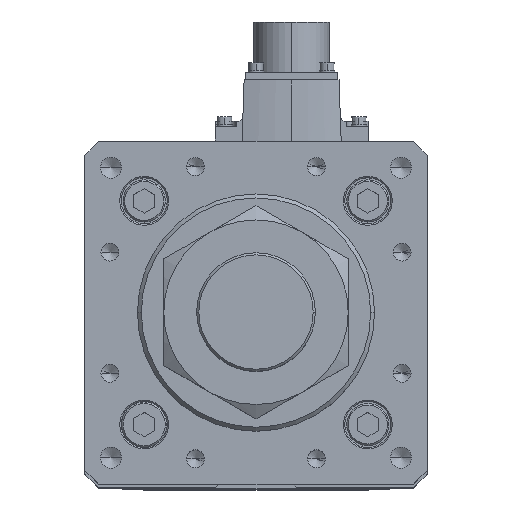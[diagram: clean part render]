
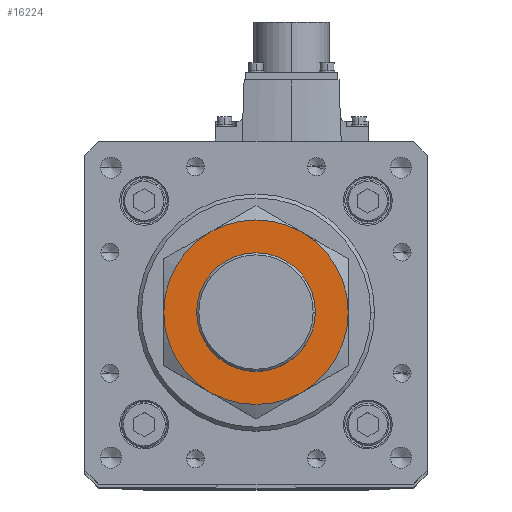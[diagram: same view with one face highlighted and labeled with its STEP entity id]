
A CAD part, top view. The second image highlights one B-rep face of the part: STEP entity #16224.
In plain terms, the highlighted planar face has unit normal (0, 0, 1).
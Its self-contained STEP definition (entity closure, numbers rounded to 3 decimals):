
#69 = ORIENTED_EDGE ( 'NONE', *, *, #29743, .F. ) ;
#399 = CARTESIAN_POINT ( 'NONE',  ( 0., 0., 27. ) ) ;
#406 = CARTESIAN_POINT ( 'NONE',  ( -17.5, 30.311, 27. ) ) ;
#1170 = CARTESIAN_POINT ( 'NONE',  ( 17.5, -30.311, 27. ) ) ;
#1745 = FACE_OUTER_BOUND ( 'NONE', #26105, .T. ) ;
#1754 = EDGE_CURVE ( 'NONE', #26246, #27239, #8614, .T. ) ;
#2060 = EDGE_CURVE ( 'NONE', #4190, #24587, #18325, .T. ) ;
#2232 = FACE_BOUND ( 'NONE', #36615, .T. ) ;
#2472 = CIRCLE ( 'NONE', #35133, 35. ) ;
#2725 = EDGE_CURVE ( 'NONE', #17454, #4190, #24308, .T. ) ;
#3067 = CARTESIAN_POINT ( 'NONE',  ( 0., 0., 27. ) ) ;
#4190 = VERTEX_POINT ( 'NONE', #20529 ) ;
#4474 = DIRECTION ( 'NONE',  ( -1., 0., 0. ) ) ;
#4641 = ORIENTED_EDGE ( 'NONE', *, *, #2725, .F. ) ;
#5234 = CARTESIAN_POINT ( 'NONE',  ( 17.5, 30.311, 27. ) ) ;
#6040 = DIRECTION ( 'NONE',  ( 0., 0., 1. ) ) ;
#6891 = ORIENTED_EDGE ( 'NONE', *, *, #10928, .F. ) ;
#7349 = EDGE_CURVE ( 'NONE', #35250, #17454, #2472, .T. ) ;
#7877 = CARTESIAN_POINT ( 'NONE',  ( 0., 0., 27. ) ) ;
#8359 = CIRCLE ( 'NONE', #10403, 22.5 ) ;
#8366 = DIRECTION ( 'NONE',  ( -1., 0., 0. ) ) ;
#8614 = CIRCLE ( 'NONE', #13260, 35. ) ;
#8738 = PLANE ( 'NONE',  #26864 ) ;
#10403 = AXIS2_PLACEMENT_3D ( 'NONE', #20169, #13981, #17435 ) ;
#10487 = CARTESIAN_POINT ( 'NONE',  ( 0., 0., 27. ) ) ;
#10928 = EDGE_CURVE ( 'NONE', #24587, #26246, #24455, .T. ) ;
#11162 = ORIENTED_EDGE ( 'NONE', *, *, #27918, .F. ) ;
#12483 = CARTESIAN_POINT ( 'NONE',  ( 0., 0., 27. ) ) ;
#12494 = VERTEX_POINT ( 'NONE', #21318 ) ;
#12967 = VERTEX_POINT ( 'NONE', #38124 ) ;
#13230 = DIRECTION ( 'NONE',  ( 0., 0., -1. ) ) ;
#13260 = AXIS2_PLACEMENT_3D ( 'NONE', #15886, #25073, #27905 ) ;
#13981 = DIRECTION ( 'NONE',  ( 0., 0., 1. ) ) ;
#13997 = CIRCLE ( 'NONE', #27043, 22.5 ) ;
#15199 = CARTESIAN_POINT ( 'NONE',  ( 0., 0., 27. ) ) ;
#15886 = CARTESIAN_POINT ( 'NONE',  ( 0., 0., 27. ) ) ;
#16224 = ADVANCED_FACE ( 'NONE', ( #1745, #2232 ), #8738, .T. ) ;
#17435 = DIRECTION ( 'NONE',  ( 1., 0., 0. ) ) ;
#17454 = VERTEX_POINT ( 'NONE', #5234 ) ;
#18025 = EDGE_CURVE ( 'NONE', #27239, #35250, #32619, .T. ) ;
#18154 = DIRECTION ( 'NONE',  ( 1., 0., 0. ) ) ;
#18325 = CIRCLE ( 'NONE', #26385, 35. ) ;
#20033 = ORIENTED_EDGE ( 'NONE', *, *, #7349, .F. ) ;
#20169 = CARTESIAN_POINT ( 'NONE',  ( 0., 0., 27. ) ) ;
#20529 = CARTESIAN_POINT ( 'NONE',  ( 35., 0., 27. ) ) ;
#21318 = CARTESIAN_POINT ( 'NONE',  ( 22.5, 0., 27. ) ) ;
#21725 = AXIS2_PLACEMENT_3D ( 'NONE', #399, #13230, #28113 ) ;
#21993 = DIRECTION ( 'NONE',  ( 0., 0., -1. ) ) ;
#22185 = DIRECTION ( 'NONE',  ( 0., 0., -1. ) ) ;
#23140 = DIRECTION ( 'NONE',  ( 0., 0., -1. ) ) ;
#23400 = CARTESIAN_POINT ( 'NONE',  ( -35., 0., 27. ) ) ;
#24240 = DIRECTION ( 'NONE',  ( 0., 0., 1. ) ) ;
#24284 = AXIS2_PLACEMENT_3D ( 'NONE', #12483, #33109, #36054 ) ;
#24308 = CIRCLE ( 'NONE', #36725, 35. ) ;
#24455 = CIRCLE ( 'NONE', #24284, 35. ) ;
#24587 = VERTEX_POINT ( 'NONE', #1170 ) ;
#25073 = DIRECTION ( 'NONE',  ( 0., 0., -1. ) ) ;
#26105 = EDGE_LOOP ( 'NONE', ( #26590, #4641, #20033, #32004, #33062, #6891 ) ) ;
#26246 = VERTEX_POINT ( 'NONE', #27601 ) ;
#26385 = AXIS2_PLACEMENT_3D ( 'NONE', #10487, #21993, #36783 ) ;
#26590 = ORIENTED_EDGE ( 'NONE', *, *, #2060, .F. ) ;
#26864 = AXIS2_PLACEMENT_3D ( 'NONE', #3067, #6040, #32593 ) ;
#27043 = AXIS2_PLACEMENT_3D ( 'NONE', #15199, #24240, #18154 ) ;
#27239 = VERTEX_POINT ( 'NONE', #23400 ) ;
#27601 = CARTESIAN_POINT ( 'NONE',  ( -17.5, -30.311, 27. ) ) ;
#27905 = DIRECTION ( 'NONE',  ( -1., 0., 0. ) ) ;
#27918 = EDGE_CURVE ( 'NONE', #12494, #12967, #8359, .T. ) ;
#28113 = DIRECTION ( 'NONE',  ( -1., 0., 0. ) ) ;
#29743 = EDGE_CURVE ( 'NONE', #12967, #12494, #13997, .T. ) ;
#32004 = ORIENTED_EDGE ( 'NONE', *, *, #18025, .F. ) ;
#32593 = DIRECTION ( 'NONE',  ( 1., 0., 0. ) ) ;
#32619 = CIRCLE ( 'NONE', #21725, 35. ) ;
#33062 = ORIENTED_EDGE ( 'NONE', *, *, #1754, .F. ) ;
#33109 = DIRECTION ( 'NONE',  ( 0., 0., -1. ) ) ;
#35133 = AXIS2_PLACEMENT_3D ( 'NONE', #36838, #22185, #4474 ) ;
#35250 = VERTEX_POINT ( 'NONE', #406 ) ;
#36054 = DIRECTION ( 'NONE',  ( -1., 0., 0. ) ) ;
#36615 = EDGE_LOOP ( 'NONE', ( #69, #11162 ) ) ;
#36725 = AXIS2_PLACEMENT_3D ( 'NONE', #7877, #23140, #8366 ) ;
#36783 = DIRECTION ( 'NONE',  ( -1., 0., 0. ) ) ;
#36838 = CARTESIAN_POINT ( 'NONE',  ( 0., 0., 27. ) ) ;
#38124 = CARTESIAN_POINT ( 'NONE',  ( -22.5, 0., 27. ) ) ;
